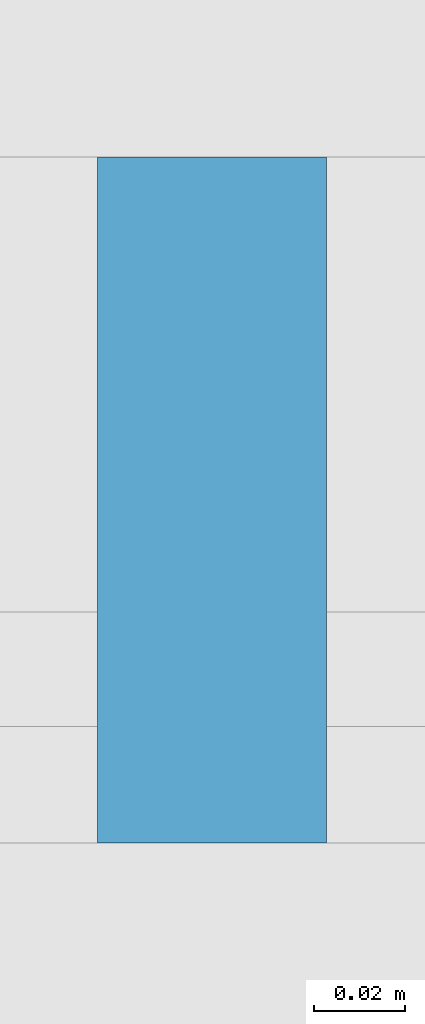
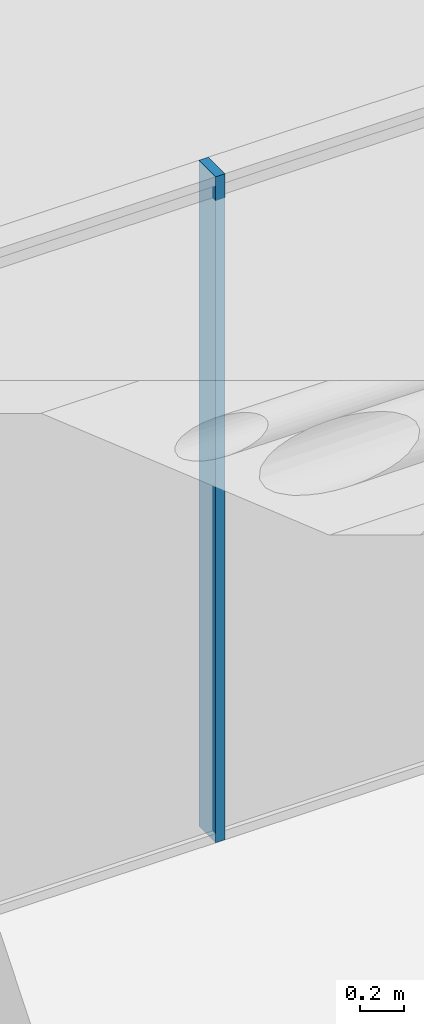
# One storey, part 6 of 25: 1 member, 1 element without a shape of its own.
"""IFC2X3 building model written with IfcOpenShell, lengths in millimetres."""

from ifc_helpers import new_model, entity, si_unit, converted_unit, derived_unit, direction, frame, origin, origin_2d_with_axis, place, context, subcontext, project, spatial, rectangle, extrude, source, transform, mapped, material, type_object, type_shapes, element, aggregate, save


model = new_model("IFC2X3")

# Units and contexts
model_context = context("Model", 3, precision=0.01, world=origin(), true_north=direction((6.12303176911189e-17, 1.0)))
body_context = subcontext(model_context, "Body", "Model", "MODEL_VIEW")
ifc_project = project(units=[si_unit("LENGTHUNIT", "METRE", prefix="MILLI"), si_unit("AREAUNIT", "SQUARE_METRE"), si_unit("VOLUMEUNIT", "CUBIC_METRE"), converted_unit("PLANEANGLEUNIT", "DEGREE", entity("IfcRatioMeasure", 0.0174532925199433), si_unit("PLANEANGLEUNIT", "RADIAN"), dimensions=[0, 0, 0, 0, 0, 0, 0]), si_unit("MASSUNIT", "GRAM", prefix="KILO"), derived_unit("MASSDENSITYUNIT", [(si_unit("MASSUNIT", "GRAM", prefix="KILO"), 1), (si_unit("LENGTHUNIT", "METRE"), -3)]), derived_unit("MOMENTOFINERTIAUNIT", [(si_unit("LENGTHUNIT", "METRE"), 4)]), si_unit("TIMEUNIT", "SECOND"), si_unit("FREQUENCYUNIT", "HERTZ"), si_unit("THERMODYNAMICTEMPERATUREUNIT", "DEGREE_CELSIUS"), derived_unit("THERMALTRANSMITTANCEUNIT", [(si_unit("MASSUNIT", "GRAM", prefix="KILO"), 1), (si_unit("THERMODYNAMICTEMPERATUREUNIT", "KELVIN"), -1), (si_unit("TIMEUNIT", "SECOND"), -3)]), derived_unit("VOLUMETRICFLOWRATEUNIT", [(si_unit("LENGTHUNIT", "METRE"), 3), (si_unit("TIMEUNIT", "SECOND"), -1)]), si_unit("ELECTRICCURRENTUNIT", "AMPERE"), si_unit("ELECTRICVOLTAGEUNIT", "VOLT"), si_unit("POWERUNIT", "WATT"), si_unit("FORCEUNIT", "NEWTON", prefix="KILO"), si_unit("ILLUMINANCEUNIT", "LUX"), si_unit("LUMINOUSFLUXUNIT", "LUMEN"), si_unit("LUMINOUSINTENSITYUNIT", "CANDELA"), derived_unit("USERDEFINED", [(si_unit("MASSUNIT", "GRAM", prefix="KILO"), -1), (si_unit("LENGTHUNIT", "METRE"), -2), (si_unit("TIMEUNIT", "SECOND"), 3), (si_unit("LUMINOUSFLUXUNIT", "LUMEN"), 1)]), derived_unit("LINEARVELOCITYUNIT", [(si_unit("LENGTHUNIT", "METRE"), 1), (si_unit("TIMEUNIT", "SECOND"), -1)]), si_unit("PRESSUREUNIT", "PASCAL"), derived_unit("USERDEFINED", [(si_unit("LENGTHUNIT", "METRE"), -2), (si_unit("MASSUNIT", "GRAM", prefix="KILO"), 1), (si_unit("TIMEUNIT", "SECOND"), -2)]), derived_unit("LINEARFORCEUNIT", [(si_unit("MASSUNIT", "GRAM", prefix="KILO"), 1), (si_unit("LENGTHUNIT", "METRE"), 1), (si_unit("TIMEUNIT", "SECOND"), -2), (si_unit("LENGTHUNIT", "METRE"), -1)]), derived_unit("PLANARFORCEUNIT", [(si_unit("MASSUNIT", "GRAM", prefix="KILO"), 1), (si_unit("LENGTHUNIT", "METRE"), 1), (si_unit("TIMEUNIT", "SECOND"), -2), (si_unit("LENGTHUNIT", "METRE"), -2)])], contexts=[model_context])

# Site, building, storey
site_placement = place(None, frame((10627.5135316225, 21939.0796949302, 0.0)))
site = spatial("IfcSite", under=ifc_project, at=site_placement, Name="Default", CompositionType="ELEMENT")
building_placement = place(site_placement, origin())
building = spatial("IfcBuilding", under=site, at=building_placement, CompositionType="ELEMENT")
storey_placement = place(building_placement, origin())
storey = spatial("IfcBuildingStorey", under=building, at=storey_placement, Name="RDC", CompositionType="ELEMENT", Elevation=0.0)

# Curtain wall, member
curtain_wall_type = type_object("IfcCurtainWallType", Name="Curtain Wall:Curtain_Wall-Empty 2", PredefinedType="NOTDEFINED")
curtain_wall_placement = place(storey_placement, origin())
curtain_wall = element("IfcCurtainWall", 1, at=curtain_wall_placement, inside=storey, type_object=curtain_wall_type, Name="Curtain Wall:Curtain_Wall-Empty 2", ObjectType="Curtain Wall:Curtain_Wall-Empty 2")
ifc_material = material(Name="Aluminium")
member_type = type_object("IfcMemberType", Name="Rectangular Mullion:50x150mm", PredefinedType="MULLION", material=ifc_material)
shared_shape = source(origin(), body_context, "Body", "SweptSolid", [
    extrude(rectangle(XDim=150.0, YDim=50.0, at=origin_2d_with_axis()), frame((0.0, 0.0, -3660.0), z_axis=(0.0, 0.0, 1.0), x_axis=(0.0, -1.0, 0.0)), (0.0, 0.0, 1.0), 3660.0),
])
type_shapes(member_type, [shared_shape])
member_placement = place(storey_placement, frame((14460.4864686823, -10774.0796949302, 0.0), z_axis=(0.0, 0.0, -1.0), x_axis=(1.0, 0.0, 0.0)))
member = element("IfcMember", 2, at=member_placement, type_object=member_type, material=ifc_material, Name="Rectangular Mullion:50x150mm", ObjectType="Rectangular Mullion:50x150mm", context=body_context, shape_type="MappedRepresentation", body=[
    mapped(shared_shape, transform((0.0, 0.0, 0.0), scale=1.0)),
])
aggregate(curtain_wall, [member])

save(model, "model.ifc")
